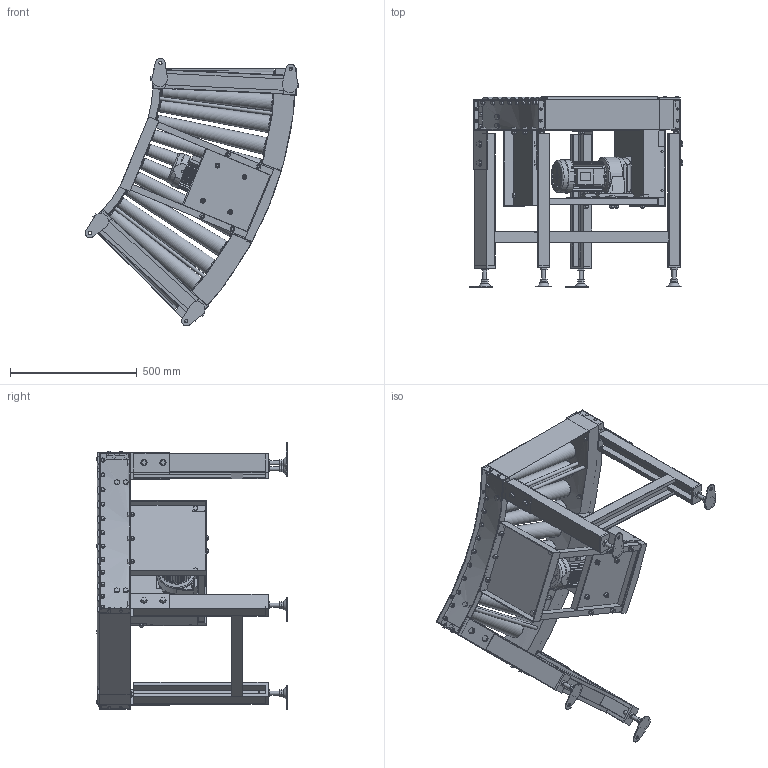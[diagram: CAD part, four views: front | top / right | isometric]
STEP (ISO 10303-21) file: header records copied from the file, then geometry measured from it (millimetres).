
FILE_DESCRIPTION( (''), '2;1');
FILE_NAME ('WEB-MCC3-45-500-75-45°-L.stp','2025-07-18T07:57:39',(''),(''),'spGate 20.6.2 (****-****-****-****)','','');
FILE_SCHEMA (('AUTOMOTIVE_DESIGN'));
Length unit declared in the file: millimetre
Products named in the file (22): WEB-MCC3-45-500-75-45_-L; TEMP_X_T-prt0; TEMP_X_T-prt1; TEMP_X_T-prt2; TEMP_X_T-prt3; TEMP_X_T-prt4; TEMP_X_T-prt5; TEMP_X_T-prt6; TEMP_X_T-prt7; TEMP_X_T-prt8; TEMP_X_T-prt9; TEMP_X_T-prt10; TEMP_X_T-prt11; TEMP_X_T-prt12; TEMP_X_T-prt13; TEMP_X_T-prt14; TEMP_X_T-prt15; TEMP_X_T-prt16; TEMP_X_T-prt17; TEMP_X_T-prt18; TEMP_X_T-prt19; TEMP_X_T-prt20
Assembly tree (21 placements, depth 2):
  WEB-MCC3-45-500-75-45_-L
    TEMP_X_T-prt0
    TEMP_X_T-prt1
    TEMP_X_T-prt2
    TEMP_X_T-prt3
    TEMP_X_T-prt4
    TEMP_X_T-prt5
    TEMP_X_T-prt6
    TEMP_X_T-prt7
    TEMP_X_T-prt8
    TEMP_X_T-prt9
    TEMP_X_T-prt10
    TEMP_X_T-prt11
    TEMP_X_T-prt12
    TEMP_X_T-prt13
    TEMP_X_T-prt14
    TEMP_X_T-prt15
    TEMP_X_T-prt16
    TEMP_X_T-prt17
    TEMP_X_T-prt18
    TEMP_X_T-prt19
    TEMP_X_T-prt20
Bounding box: 843.62 x 751 x 1056.35 mm (x, y, z)
Volume: 34905221.8 mm3; surface area: 4664468.1 mm2
Topology: 21 solids, 22 shells, 2661 faces, 6830 edges, 4529 vertices
Faces by surface type: plane 2046, cylinder 528, bspline 87
Full cylindrical faces by diameter (mm): 5 x4, 6 x20, 7 x8, 8 x5, 9.2 x4, 10 x46, 10.5 x4, 12 x14, 12.2 x12, 13 x12, 13.8 x12, 15 x1, 15.4 x20, 16 x16, 17.3 x12, 18 x16, 18.4 x24, 21 x4, 21.5 x1, 24 x8, 28 x13, 31 x1, 63 x1, 113.2 x1, 153 x1
Entity records: 143871 total; most frequent: CARTESIAN_POINT 23044, ORIENTED_EDGE 13658, DIRECTION 13313, COLOUR_RGB 9511, PRESENTATION_STYLE_ASSIGNMENT 9511, STYLED_ITEM 9511, EDGE_CURVE 6829, DRAUGHTING_PRE_DEFINED_CURVE_FONT 6829
